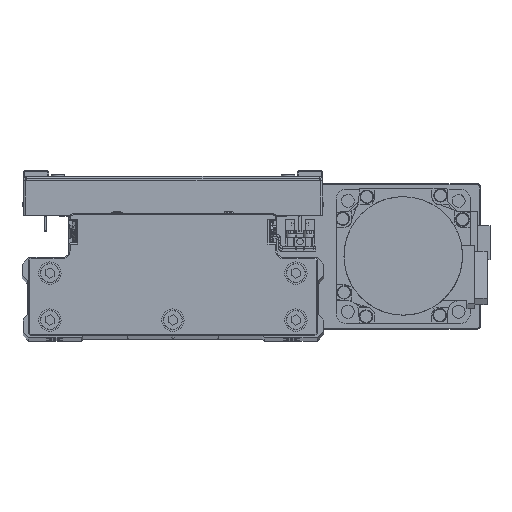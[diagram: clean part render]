
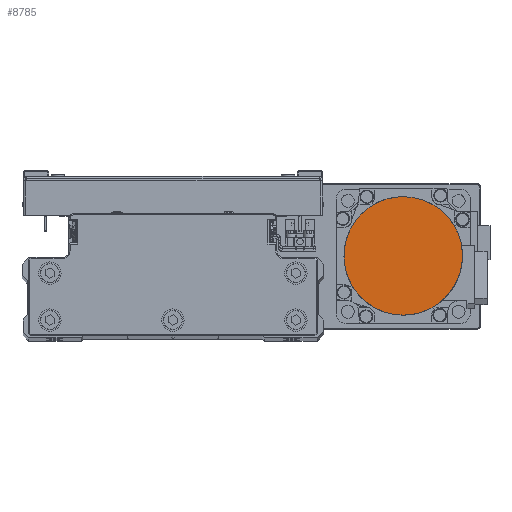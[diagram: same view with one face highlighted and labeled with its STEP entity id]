
A CAD part, top view. The second image highlights one B-rep face of the part: STEP entity #8785.
In plain terms, the highlighted planar face has unit normal (0, 0, 1) as drawn and (0, 0, -1) by its records, which use the part's own axes.
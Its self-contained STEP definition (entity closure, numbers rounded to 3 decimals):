
#64 = CARTESIAN_POINT ( 'NONE',  ( -25.652, 6.871, -109.7 ) ) ;
#606 = CARTESIAN_POINT ( 'NONE',  ( -17.512, -19.965, -109.7 ) ) ;
#829 = CARTESIAN_POINT ( 'NONE',  ( 13.28, -22.998, -109.7 ) ) ;
#2988 = CARTESIAN_POINT ( 'NONE',  ( 26.5, 1.734, -109.7 ) ) ;
#3207 = CARTESIAN_POINT ( 'NONE',  ( 6.871, 25.652, -109.7 ) ) ;
#3420 = CARTESIAN_POINT ( 'NONE',  ( -22.998, 13.28, -109.7 ) ) ;
#3698 = CARTESIAN_POINT ( 'NONE',  ( -26.5, 0., -109.7 ) ) ;
#3962 = CARTESIAN_POINT ( 'NONE',  ( -22.998, -13.28, -109.7 ) ) ;
#4177 = CARTESIAN_POINT ( 'NONE',  ( 6.871, -25.652, -109.7 ) ) ;
#4396 = CARTESIAN_POINT ( 'NONE',  ( 26.5, -1.734, -109.7 ) ) ;
#5523 = CARTESIAN_POINT ( 'NONE',  ( 0., 0., -109.7 ) ) ;
#6545 = CARTESIAN_POINT ( 'NONE',  ( 13.28, 22.998, -109.7 ) ) ;
#6773 = CARTESIAN_POINT ( 'NONE',  ( -17.512, 19.965, -109.7 ) ) ;
#7308 = CARTESIAN_POINT ( 'NONE',  ( -25.652, -6.871, -109.7 ) ) ;
#7524 = CARTESIAN_POINT ( 'NONE',  ( -1.734, -26.5, -109.7 ) ) ;
#7741 = CARTESIAN_POINT ( 'NONE',  ( 25.147, -8.539, -109.7 ) ) ;
#8785 = ADVANCED_FACE ( 'NONE', ( #22444 ), #36050, .F. ) ;
#9899 = CARTESIAN_POINT ( 'NONE',  ( 19.965, 17.512, -109.7 ) ) ;
#10114 = CARTESIAN_POINT ( 'NONE',  ( -11.744, 23.819, -109.7 ) ) ;
#10653 = CARTESIAN_POINT ( 'NONE',  ( -26.5, 0., -109.7 ) ) ;
#10880 = CARTESIAN_POINT ( 'NONE',  ( -8.539, -25.147, -109.7 ) ) ;
#11101 = CARTESIAN_POINT ( 'NONE',  ( 21.07, -16.165, -109.7 ) ) ;
#11748 = CARTESIAN_POINT ( 'NONE',  ( 26.5, 0., -109.7 ) ) ;
#13238 = CARTESIAN_POINT ( 'NONE',  ( 23.819, 11.744, -109.7 ) ) ;
#13451 = CARTESIAN_POINT ( 'NONE',  ( -3.469, 26.329, -109.7 ) ) ;
#13668 = CARTESIAN_POINT ( 'NONE',  ( -26.329, 3.469, -109.7 ) ) ;
#14200 = CARTESIAN_POINT ( 'NONE',  ( -16.165, -21.07, -109.7 ) ) ;
#14424 = CARTESIAN_POINT ( 'NONE',  ( 16.165, -21.07, -109.7 ) ) ;
#16577 = CARTESIAN_POINT ( 'NONE',  ( 26.329, 3.469, -109.7 ) ) ;
#16787 = CARTESIAN_POINT ( 'NONE',  ( 3.469, 26.329, -109.7 ) ) ;
#16995 = CARTESIAN_POINT ( 'NONE',  ( -23.819, 11.744, -109.7 ) ) ;
#17533 = CARTESIAN_POINT ( 'NONE',  ( -21.07, -16.165, -109.7 ) ) ;
#17752 = CARTESIAN_POINT ( 'NONE',  ( 8.539, -25.147, -109.7 ) ) ;
#17983 = CARTESIAN_POINT ( 'NONE',  ( 26.5, 0., -109.7 ) ) ;
#18662 = AXIS2_PLACEMENT_3D ( 'NONE', #5523, #19097, #32714 ) ;
#19097 = DIRECTION ( 'NONE',  ( 0., 0., 1. ) ) ;
#20125 = CARTESIAN_POINT ( 'NONE',  ( 11.744, 23.819, -109.7 ) ) ;
#20156 = EDGE_LOOP ( 'NONE', ( #21420, #36539 ) ) ;
#20329 = CARTESIAN_POINT ( 'NONE',  ( -19.965, 17.512, -109.7 ) ) ;
#20862 = CARTESIAN_POINT ( 'NONE',  ( -25.147, -8.539, -109.7 ) ) ;
#21079 = CARTESIAN_POINT ( 'NONE',  ( 1.734, -26.5, -109.7 ) ) ;
#21297 = CARTESIAN_POINT ( 'NONE',  ( 25.652, -6.871, -109.7 ) ) ;
#21420 = ORIENTED_EDGE ( 'NONE', *, *, #28739, .F. ) ;
#22444 = FACE_OUTER_BOUND ( 'NONE', #20156, .T. ) ;
#22530 = VERTEX_POINT ( 'NONE', #11748 ) ;
#23452 = CARTESIAN_POINT ( 'NONE',  ( 17.512, 19.965, -109.7 ) ) ;
#23673 = CARTESIAN_POINT ( 'NONE',  ( -13.28, 22.998, -109.7 ) ) ;
#24213 = CARTESIAN_POINT ( 'NONE',  ( -26.5, -1.734, -109.7 ) ) ;
#24439 = CARTESIAN_POINT ( 'NONE',  ( -6.871, -25.652, -109.7 ) ) ;
#24662 = CARTESIAN_POINT ( 'NONE',  ( 22.998, -13.28, -109.7 ) ) ;
#26817 = CARTESIAN_POINT ( 'NONE',  ( 22.998, 13.28, -109.7 ) ) ;
#27030 = CARTESIAN_POINT ( 'NONE',  ( -6.871, 25.652, -109.7 ) ) ;
#27252 = CARTESIAN_POINT ( 'NONE',  ( -26.5, 1.734, -109.7 ) ) ;
#27796 = CARTESIAN_POINT ( 'NONE',  ( -13.28, -22.998, -109.7 ) ) ;
#28024 = CARTESIAN_POINT ( 'NONE',  ( 17.512, -19.965, -109.7 ) ) ;
#28090 = EDGE_CURVE ( 'NONE', #38869, #22530, #28635, .T. ) ;
#28635 = B_SPLINE_CURVE_WITH_KNOTS ( 'NONE', 3,
 ( #10653, #24213, #37818, #7308, #20862, #34487, #3962, #17533, #31151, #606, #14200, #27796, #41350, #10880, #24439, #38038, #7524, #21079, #34703, #4177, #17752, #31363, #829, #14424, #28024, #41576, #11101, #24662, #38254, #7741, #21297, #34917, #4396, #17983 ),
 .UNSPECIFIED., .F., .F.,
 ( 4, 2, 2, 2, 2, 2, 2, 2, 2, 2, 2, 2, 2, 2, 2, 2, 4 ),
 ( 0., 0.063, 0.125, 0.188, 0.25, 0.312, 0.375, 0.437, 0.5, 0.562, 0.625, 0.687, 0.75, 0.813, 0.875, 0.938, 1. ),
 .UNSPECIFIED. ) ;
#28739 = EDGE_CURVE ( 'NONE', #22530, #38869, #29691, .T. ) ;
#29691 = B_SPLINE_CURVE_WITH_KNOTS ( 'NONE', 3,
 ( #33514, #2988, #16577, #30176, #43709, #13238, #26817, #40387, #9899, #23452, #37059, #6545, #20125, #33729, #3207, #16787, #30394, #43923, #13451, #27030, #40591, #10114, #23673, #37276, #6773, #20329, #33943, #3420, #16995, #30602, #64, #13668, #27252, #40806 ),
 .UNSPECIFIED., .F., .F.,
 ( 4, 2, 2, 2, 2, 2, 2, 2, 2, 2, 2, 2, 2, 2, 2, 2, 4 ),
 ( 0., 0.062, 0.125, 0.187, 0.25, 0.312, 0.375, 0.437, 0.5, 0.562, 0.625, 0.687, 0.75, 0.813, 0.875, 0.938, 1. ),
 .UNSPECIFIED. ) ;
#30176 = CARTESIAN_POINT ( 'NONE',  ( 25.652, 6.871, -109.7 ) ) ;
#30394 = CARTESIAN_POINT ( 'NONE',  ( 1.734, 26.5, -109.7 ) ) ;
#30602 = CARTESIAN_POINT ( 'NONE',  ( -25.147, 8.539, -109.7 ) ) ;
#31151 = CARTESIAN_POINT ( 'NONE',  ( -19.965, -17.512, -109.7 ) ) ;
#31363 = CARTESIAN_POINT ( 'NONE',  ( 11.744, -23.819, -109.7 ) ) ;
#32714 = DIRECTION ( 'NONE',  ( 1., 0., 0. ) ) ;
#33514 = CARTESIAN_POINT ( 'NONE',  ( 26.5, 0., -109.7 ) ) ;
#33729 = CARTESIAN_POINT ( 'NONE',  ( 8.539, 25.147, -109.7 ) ) ;
#33943 = CARTESIAN_POINT ( 'NONE',  ( -21.07, 16.165, -109.7 ) ) ;
#34487 = CARTESIAN_POINT ( 'NONE',  ( -23.819, -11.744, -109.7 ) ) ;
#34703 = CARTESIAN_POINT ( 'NONE',  ( 3.469, -26.329, -109.7 ) ) ;
#34917 = CARTESIAN_POINT ( 'NONE',  ( 26.329, -3.469, -109.7 ) ) ;
#36050 = PLANE ( 'NONE',  #18662 ) ;
#36539 = ORIENTED_EDGE ( 'NONE', *, *, #28090, .F. ) ;
#37059 = CARTESIAN_POINT ( 'NONE',  ( 16.165, 21.07, -109.7 ) ) ;
#37276 = CARTESIAN_POINT ( 'NONE',  ( -16.165, 21.07, -109.7 ) ) ;
#37818 = CARTESIAN_POINT ( 'NONE',  ( -26.329, -3.469, -109.7 ) ) ;
#38038 = CARTESIAN_POINT ( 'NONE',  ( -3.469, -26.329, -109.7 ) ) ;
#38254 = CARTESIAN_POINT ( 'NONE',  ( 23.819, -11.744, -109.7 ) ) ;
#38869 = VERTEX_POINT ( 'NONE', #3698 ) ;
#40387 = CARTESIAN_POINT ( 'NONE',  ( 21.07, 16.165, -109.7 ) ) ;
#40591 = CARTESIAN_POINT ( 'NONE',  ( -8.539, 25.147, -109.7 ) ) ;
#40806 = CARTESIAN_POINT ( 'NONE',  ( -26.5, 0., -109.7 ) ) ;
#41350 = CARTESIAN_POINT ( 'NONE',  ( -11.744, -23.819, -109.7 ) ) ;
#41576 = CARTESIAN_POINT ( 'NONE',  ( 19.965, -17.512, -109.7 ) ) ;
#43709 = CARTESIAN_POINT ( 'NONE',  ( 25.147, 8.539, -109.7 ) ) ;
#43923 = CARTESIAN_POINT ( 'NONE',  ( -1.734, 26.5, -109.7 ) ) ;
